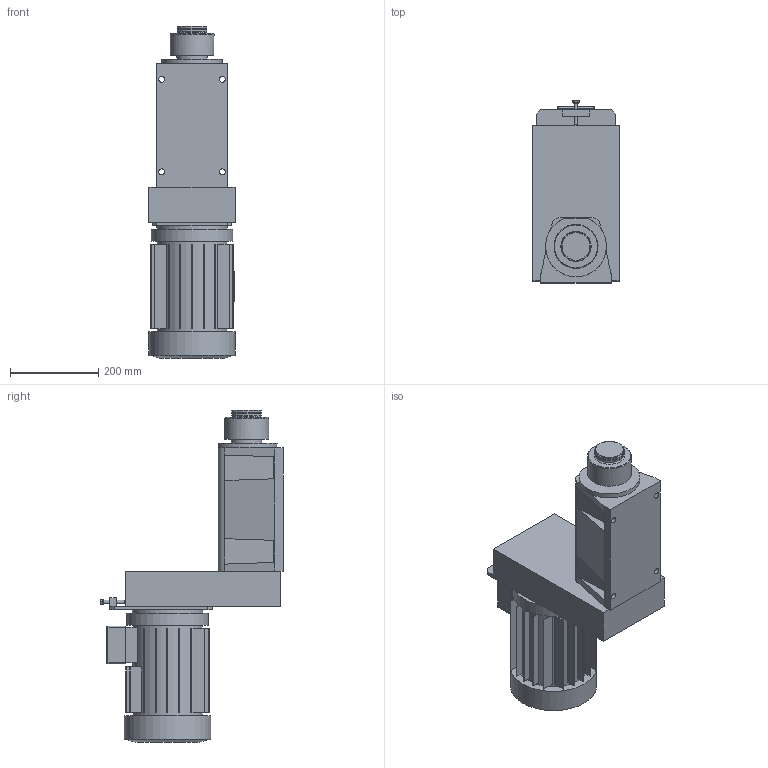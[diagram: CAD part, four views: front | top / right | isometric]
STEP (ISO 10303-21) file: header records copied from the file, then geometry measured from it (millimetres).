
FILE_DESCRIPTION((''),'2;1');
FILE_NAME('C:\VaultWork\Zeichnungen\Maßblätter\BF4\BF01376-1-0 Maßblatt BF4-HSK-C-Gr.63 Z-Laterne.stp','2009-05-28T15:17:35',('Test'),(''),'Autodesk Inventor 2008','Autodesk Inventor 2008','');
FILE_SCHEMA(('AUTOMOTIVE_DESIGN { 1 0 10303 214 1 1 1 1 }'));
Length unit declared in the file: millimetre
Products named in the file (1): BF01376-1-0 Maßblatt BF4-HSK-C-Gr.63  Z-Laterne
Bounding box: 196 x 414.3 x 754.2 mm (x, y, z)
Volume: 19098810.7 mm3; surface area: 836344.8 mm2
Topology: 6 solids, 6 shells, 302 faces, 720 edges, 461 vertices
Faces by surface type: plane 194, cylinder 68, bspline 21, cone 15, sphere 4
Full cylindrical faces by diameter (mm): 4 x1, 8 x6, 11.63 x1, 31 x1, 63 x2, 67 x2, 69.3 x1, 100 x2, 158 x1, 160 x1, 185 x1, 196 x1
Entity records: 8962 total; most frequent: CARTESIAN_POINT 1717, DIRECTION 1424, ORIENTED_EDGE 1330, EDGE_CURVE 665, AXIS2_PLACEMENT_3D 495, VERTEX_POINT 449, VECTOR 434, LINE 434
